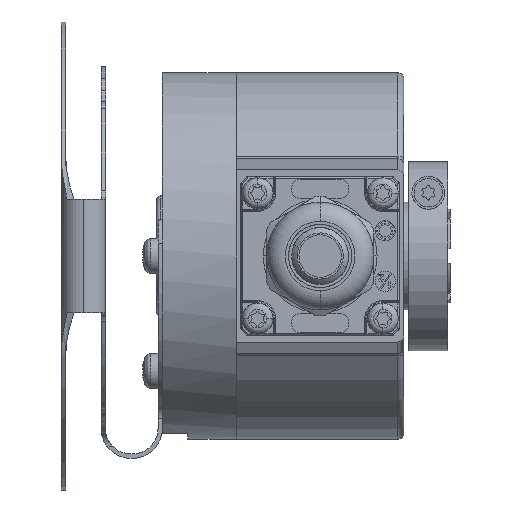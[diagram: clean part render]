
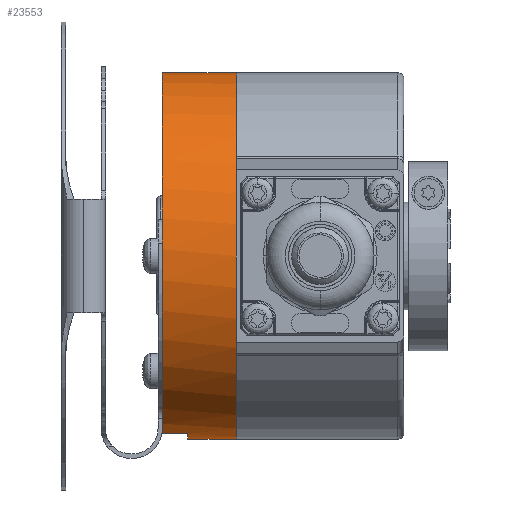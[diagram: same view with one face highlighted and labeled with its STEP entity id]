
A CAD part, front view. The second image highlights one B-rep face of the part: STEP entity #23553.
In plain terms, the highlighted cylindrical face has radius 29 mm (diameter 58 mm), a partial arc.
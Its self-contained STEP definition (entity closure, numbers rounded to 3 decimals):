
#335 = CARTESIAN_POINT ( 'NONE',  ( 0.378, 25.423, -29. ) ) ;
#1748 = CARTESIAN_POINT ( 'NONE',  ( 8.068, 25.423, 29. ) ) ;
#1942 = ORIENTED_EDGE ( 'NONE', *, *, #4278, .F. ) ;
#2069 = AXIS2_PLACEMENT_3D ( 'NONE', #7568, #11466, #11724 ) ;
#2419 = DIRECTION ( 'NONE',  ( 1., 0., 0. ) ) ;
#2554 = CARTESIAN_POINT ( 'NONE',  ( 8.068, 25.423, -29. ) ) ;
#2574 = VERTEX_POINT ( 'NONE', #20005 ) ;
#3094 = EDGE_CURVE ( 'NONE', #20950, #6228, #11100, .T. ) ;
#3216 = DIRECTION ( 'NONE',  ( 0., 0., -1. ) ) ;
#3464 = CARTESIAN_POINT ( 'NONE',  ( 8.068, 25.423, 0. ) ) ;
#3561 = DIRECTION ( 'NONE',  ( -1., 0., 0. ) ) ;
#4278 = EDGE_CURVE ( 'NONE', #20950, #10295, #8705, .T. ) ;
#4330 = VECTOR ( 'NONE', #3561, 1000. ) ;
#4356 = VERTEX_POINT ( 'NONE', #18660 ) ;
#4508 = VECTOR ( 'NONE', #18790, 1000. ) ;
#6228 = VERTEX_POINT ( 'NONE', #9394 ) ;
#6280 = ORIENTED_EDGE ( 'NONE', *, *, #18031, .T. ) ;
#6355 = ORIENTED_EDGE ( 'NONE', *, *, #15982, .F. ) ;
#7248 = VECTOR ( 'NONE', #2419, 1000. ) ;
#7308 = FACE_OUTER_BOUND ( 'NONE', #10593, .T. ) ;
#7568 = CARTESIAN_POINT ( 'NONE',  ( 8.068, 25.423, 0. ) ) ;
#7702 = CIRCLE ( 'NONE', #10597, 29. ) ;
#8272 = DIRECTION ( 'NONE',  ( 1., 0., 0. ) ) ;
#8604 = AXIS2_PLACEMENT_3D ( 'NONE', #10527, #20103, #18403 ) ;
#8705 = LINE ( 'NONE', #20467, #4508 ) ;
#9394 = CARTESIAN_POINT ( 'NONE',  ( -3.622, 18.423, -28.142 ) ) ;
#10295 = VERTEX_POINT ( 'NONE', #1748 ) ;
#10355 = CARTESIAN_POINT ( 'NONE',  ( 0.378, 25.423, 0. ) ) ;
#10515 = VERTEX_POINT ( 'NONE', #335 ) ;
#10527 = CARTESIAN_POINT ( 'NONE',  ( -3.622, 25.423, 0. ) ) ;
#10593 = EDGE_LOOP ( 'NONE', ( #1942, #11235, #6355, #6280, #22745, #21240 ) ) ;
#10597 = AXIS2_PLACEMENT_3D ( 'NONE', #10355, #8272, #21846 ) ;
#11100 = CIRCLE ( 'NONE', #8604, 29. ) ;
#11235 = ORIENTED_EDGE ( 'NONE', *, *, #3094, .T. ) ;
#11466 = DIRECTION ( 'NONE',  ( 1., 0., 0. ) ) ;
#11724 = DIRECTION ( 'NONE',  ( 0., 0., -1. ) ) ;
#13249 = EDGE_CURVE ( 'NONE', #10295, #2574, #17465, .T. ) ;
#13409 = CYLINDRICAL_SURFACE ( 'NONE', #2069, 29. ) ;
#15176 = LINE ( 'NONE', #23037, #4330 ) ;
#15982 = EDGE_CURVE ( 'NONE', #4356, #6228, #15176, .T. ) ;
#17465 = CIRCLE ( 'NONE', #23653, 29. ) ;
#17819 = EDGE_CURVE ( 'NONE', #10515, #2574, #22012, .T. ) ;
#18031 = EDGE_CURVE ( 'NONE', #4356, #10515, #7702, .T. ) ;
#18403 = DIRECTION ( 'NONE',  ( 0., 0., -1. ) ) ;
#18660 = CARTESIAN_POINT ( 'NONE',  ( 0.378, 18.423, -28.142 ) ) ;
#18790 = DIRECTION ( 'NONE',  ( 1., 0., 0. ) ) ;
#20005 = CARTESIAN_POINT ( 'NONE',  ( 8.068, 25.423, -29. ) ) ;
#20103 = DIRECTION ( 'NONE',  ( 1., 0., 0. ) ) ;
#20467 = CARTESIAN_POINT ( 'NONE',  ( 8.068, 25.423, 29. ) ) ;
#20950 = VERTEX_POINT ( 'NONE', #25210 ) ;
#21240 = ORIENTED_EDGE ( 'NONE', *, *, #13249, .F. ) ;
#21846 = DIRECTION ( 'NONE',  ( 0., 0., 1. ) ) ;
#22012 = LINE ( 'NONE', #2554, #7248 ) ;
#22745 = ORIENTED_EDGE ( 'NONE', *, *, #17819, .T. ) ;
#23037 = CARTESIAN_POINT ( 'NONE',  ( 8.068, 18.423, -28.142 ) ) ;
#23553 = ADVANCED_FACE ( 'NONE', ( #7308 ), #13409, .T. ) ;
#23653 = AXIS2_PLACEMENT_3D ( 'NONE', #3464, #25129, #3216 ) ;
#25129 = DIRECTION ( 'NONE',  ( 1., 0., 0. ) ) ;
#25210 = CARTESIAN_POINT ( 'NONE',  ( -3.622, 25.423, 29. ) ) ;
